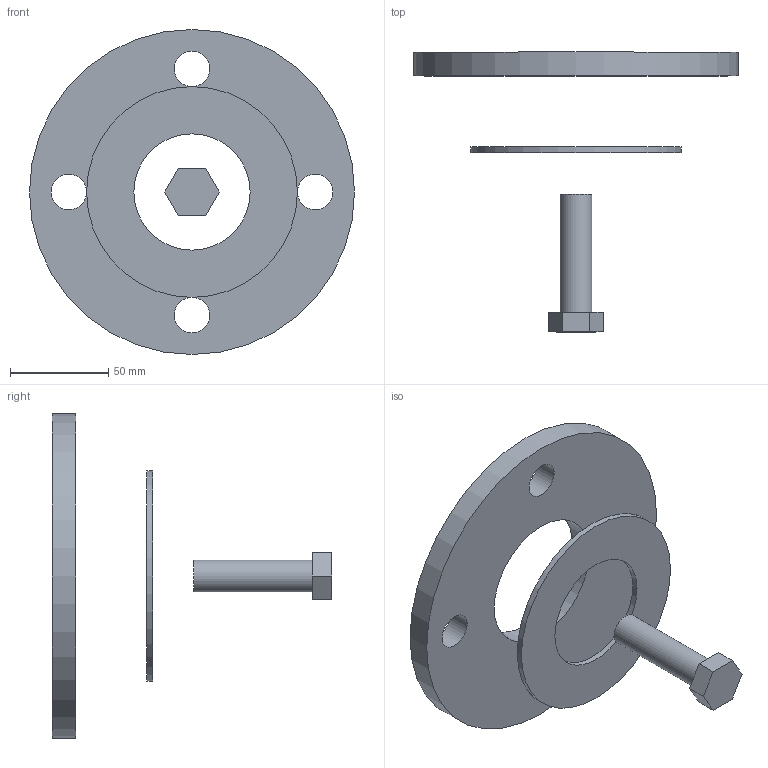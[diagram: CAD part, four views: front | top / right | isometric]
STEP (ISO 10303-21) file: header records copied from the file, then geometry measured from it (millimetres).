
FILE_DESCRIPTION( ( 'STEP AP214' ), '1' );
FILE_NAME( 'C:/Users/ilukic/Documents/ex/gebaudeentwasserung/pe/Geberit PE flange set/363746.stp', '2020-03-26T18:42:21', ( '' ), ( '' ), ' ', 'PARTsolutions', ' ' );
FILE_SCHEMA( ( 'AUTOMOTIVE_DESIGN { 1 0 10303 214 1 1 1 1 }' ) );
Length unit declared in the file: millimetre
Products named in the file (4): 363746; _363746_flange1; _363746_flange2; _363746_bolt
Assembly tree (3 placements, depth 2):
  363746
    _363746_flange1
    _363746_flange2
    _363746_bolt
Bounding box: 165 x 142 x 165 mm (x, y, z)
Volume: 236621.1 mm3; surface area: 63889.6 mm2
Topology: 3 solids, 3 shells, 22 faces, 45 edges, 30 vertices
Faces by surface type: plane 13, cylinder 9
Full cylindrical faces by diameter (mm): 16 x1, 18 x4, 59 x1, 68 x1, 107 x1, 165 x1
Entity records: 812 total; most frequent: DIRECTION 106, CARTESIAN_POINT 92, ORIENTED_EDGE 72, AXIS2_PLACEMENT_3D 44, EDGE_LOOP 44, EDGE_CURVE 36, FACE_OUTER_BOUND 31, VERTEX_POINT 30
